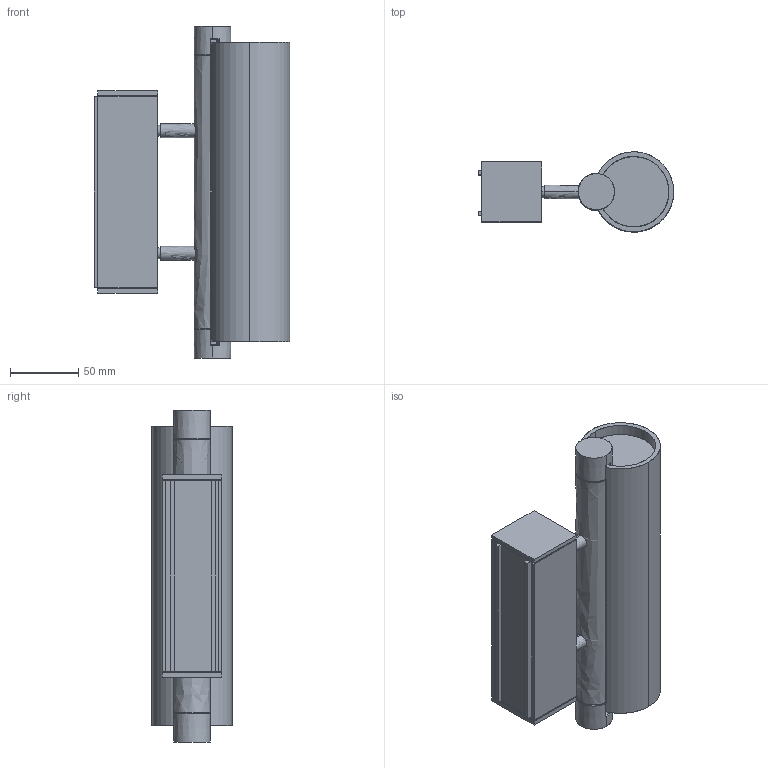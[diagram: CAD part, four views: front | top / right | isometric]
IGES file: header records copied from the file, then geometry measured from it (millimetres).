
Start section: SolidWorks IGES file using analytic representation for surfaces
Global section: file name: C:\Users\tungari.NEMOLIGHTING\Desktop\3D\WALL\3D_NORMA_25555\def\3D_NORMA_25.IGS; native system: SolidWorks 2016; preprocessor: SolidWorks 2016; author: tungari; date: 180314.141614; units: millimetre
Bounding box: 143.62 x 58.8 x 244 mm (x, y, z)
Surface area: 159147 mm2 (no closed solid volume)
Topology: 0 solids, 0 shells, 196 faces, 2322 edges, 2320 vertices
Faces by surface type: bspline 142, revolution 54
